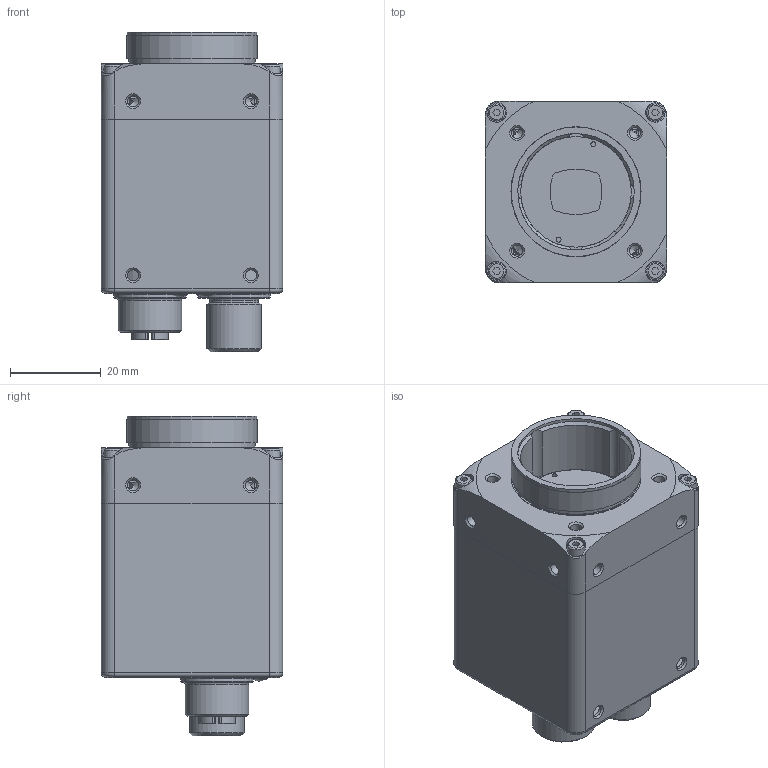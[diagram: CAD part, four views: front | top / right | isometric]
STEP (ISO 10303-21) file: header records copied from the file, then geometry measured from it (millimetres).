
FILE_DESCRIPTION( ( 'Unknown' ), '1' );
FILE_NAME( 'C:/Users/rih/Desktop/11182142_VCXG-13C.I.K34.stp', '14.10.2014', ( 'Unknown' ), ( 'Unknown' ), 'PSStep 15.0.49', 'Unknown', ' ' );
FILE_SCHEMA( ( 'AUTOMOTIVE_DESIGN { 1 0 10303 214 1 1 1 1 }' ) );
Length unit declared in the file: millimetre
Products named in the file (4): 11136125
Bounding box: 40 x 40 x 70.6 mm (x, y, z)
Volume: 26303.7 mm3; surface area: 30428.9 mm2
Topology: 4 solids, 5 shells, 1418 faces, 3786 edges, 2478 vertices
Faces by surface type: plane 743, cylinder 445, torus 92, cone 67, sphere 36, bspline 19, extrusion 16
Full cylindrical faces by diameter (mm): 0.217 x2, 0.6 x12, 0.63 x12, 0.7 x8, 0.75 x1, 0.8 x8, 0.85 x1, 1 x3, 1.1 x14, 1.24 x8, 2 x6, 2.4 x4, 2.459 x26, 2.8 x2, 3.4 x2, 3.8 x4, 8 x2, 8.25 x1, 8.3 x1, 8.4 x1, 8.9 x1, 9 x1, 9.3 x2, 9.4 x2, 10 x1, 10.2 x1, 10.75 x1, 11 x1, 12 x3, 13.3 x2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
Entity records: 57487 total; most frequent: CARTESIAN_POINT 12529, DIRECTION 6839, ORIENTED_EDGE 6680, EDGE_CURVE 3340, AXIS2_PLACEMENT_3D 2429, VERTEX_POINT 2345, VECTOR 1981, LINE 1965
